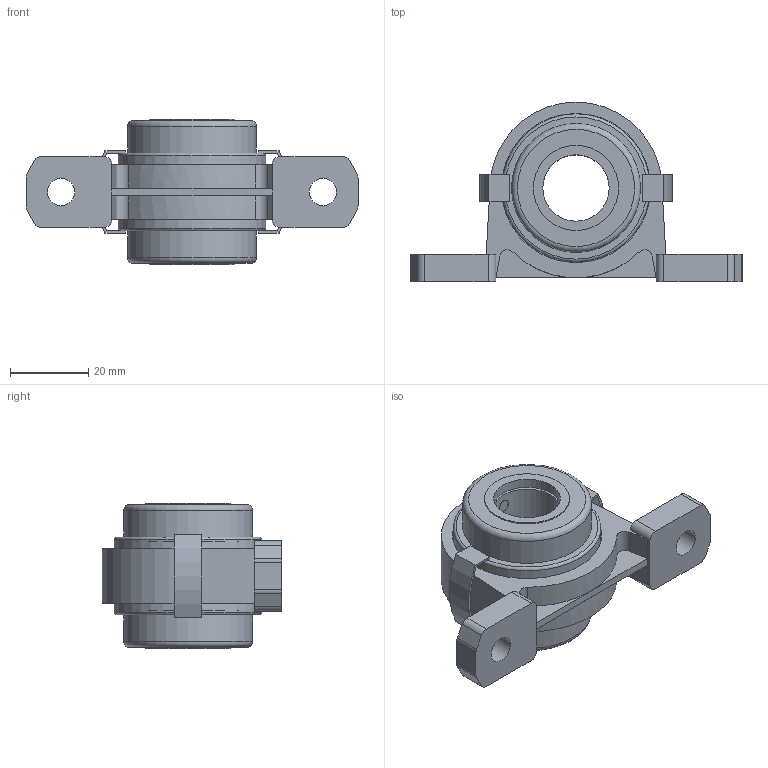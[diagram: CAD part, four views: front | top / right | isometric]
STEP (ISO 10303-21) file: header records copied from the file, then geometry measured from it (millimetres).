
FILE_DESCRIPTION((''),'2;1');
FILE_NAME('\\Ts-tgl068\j-cad-d-base\00.3DCADデータ作成フォルダ\11.エコシリーズ\MUSP000\MUSP003C.stp','2014-11-12T09:22:15',('btec_1106_2'),(''),'Autodesk Inventor 2012','Autodesk Inventor 2012','');
FILE_SCHEMA(('AUTOMOTIVE_DESIGN { 1 0 10303 214 1 1 1 1 }'));
Length unit declared in the file: millimetre
Products named in the file (5): MUSP000C; SP003; U003; 003CP17; 3CLP
Assembly tree (6 placements, depth 2):
  MUSP000C
    SP003
    U003
    003CP17  x2
    3CLP  x2
Bounding box: 85 x 46 x 37.2 mm (x, y, z)
Volume: 26200.4 mm3; surface area: 22874.9 mm2
Topology: 6 solids, 6 shells, 135 faces, 309 edges, 201 vertices
Faces by surface type: plane 74, cylinder 48, torus 8, cone 3, sphere 2
Full cylindrical faces by diameter (mm): 3.242 x1, 3.5 x1, 7 x2, 17 x3, 21.8 x4, 23.1 x1, 25 x1, 32.4 x2, 33 x2, 37.2 x2, 37.8 x2, 38.2 x2
Entity records: 3178 total; most frequent: CARTESIAN_POINT 626, DIRECTION 534, ORIENTED_EDGE 436, EDGE_CURVE 218, AXIS2_PLACEMENT_3D 204, VERTEX_POINT 156, EDGE_LOOP 156, VECTOR 126
